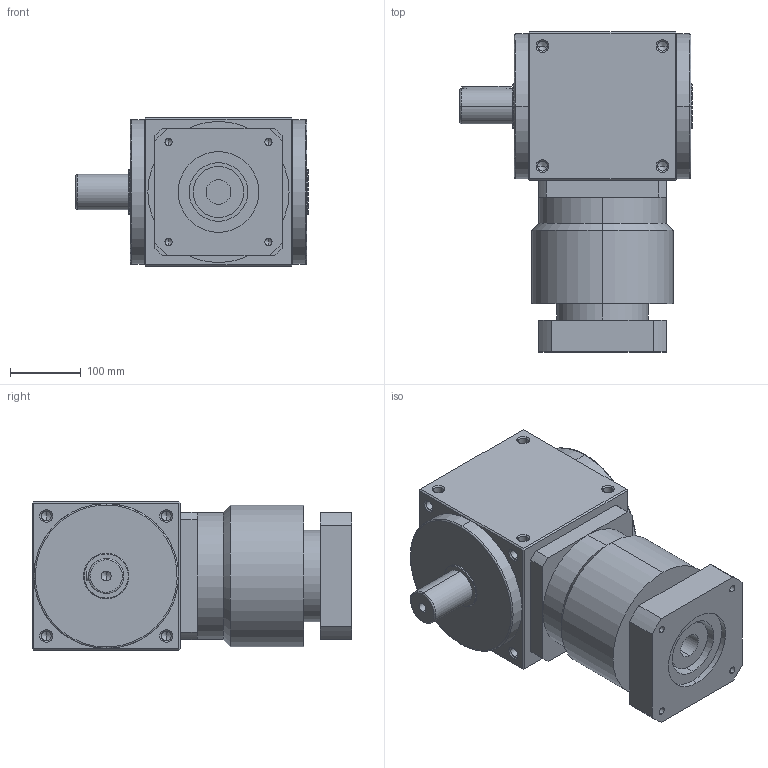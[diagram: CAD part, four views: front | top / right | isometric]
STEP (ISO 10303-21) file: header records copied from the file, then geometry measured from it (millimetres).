
FILE_DESCRIPTION (( 'STEP AP214' ), '1' );
FILE_NAME ('AT210-FL-L2 35-114.STEP', '2020-11-21T06:36:00', ( '微软用户' ), ( '微软中国' ), 'SwSTEP 2.0', 'SolidWorks 2014', '' );
FILE_SCHEMA (( 'AUTOMOTIVE_DESIGN' ));
Length unit declared in the file: millimetre
Products named in the file (2): AT210-FL-L2 35-114
Bounding box: 329 x 453 x 210 mm (x, y, z)
Volume: 17340469.7 mm3; surface area: 612305.7 mm2
Topology: 2 solids, 2 shells, 288 faces, 711 edges, 391 vertices
Faces by surface type: cylinder 126, cone 99, plane 57, bspline 6
Entity records: 11409 total; most frequent: CARTESIAN_POINT 1876, DIRECTION 1339, ORIENTED_EDGE 1322, EDGE_CURVE 661, AXIS2_PLACEMENT_3D 514, VERTEX_POINT 391, EDGE_LOOP 326, VECTOR 311
